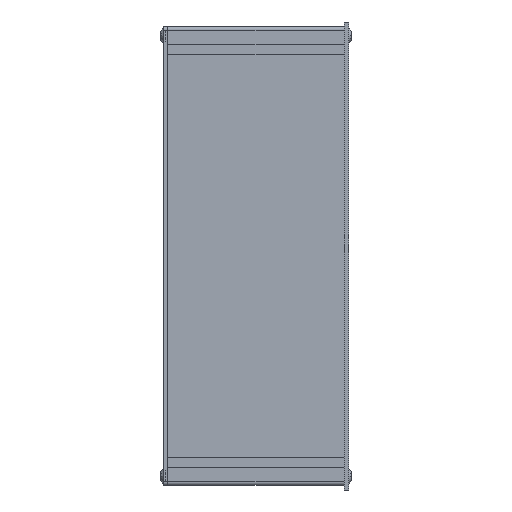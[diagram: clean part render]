
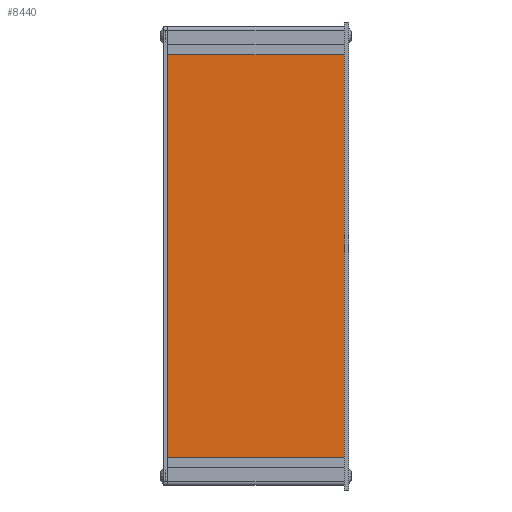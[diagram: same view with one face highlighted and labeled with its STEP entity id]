
A CAD part, left-side view. The second image highlights one B-rep face of the part: STEP entity #8440.
In plain terms, the highlighted planar face has unit normal (-1, 0, 0).
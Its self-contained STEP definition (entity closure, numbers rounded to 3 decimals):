
#932=PLANE('',#9294);
#1230=FACE_OUTER_BOUND('',#1760,.T.);
#1760=EDGE_LOOP('',(#6487,#6488,#6489,#6490));
#2504=LINE('',#13370,#3182);
#2514=LINE('',#13391,#3192);
#2515=LINE('',#13393,#3193);
#2516=LINE('',#13394,#3194);
#3182=VECTOR('',#10716,10.);
#3192=VECTOR('',#10734,10.);
#3193=VECTOR('',#10735,10.);
#3194=VECTOR('',#10736,10.);
#4160=VERTEX_POINT('',#13363);
#4163=VERTEX_POINT('',#13368);
#4170=VERTEX_POINT('',#13390);
#4171=VERTEX_POINT('',#13392);
#4995=EDGE_CURVE('',#4160,#4163,#2504,.T.);
#5005=EDGE_CURVE('',#4160,#4170,#2514,.T.);
#5006=EDGE_CURVE('',#4171,#4163,#2515,.T.);
#5007=EDGE_CURVE('',#4170,#4171,#2516,.T.);
#6487=ORIENTED_EDGE('',*,*,#5005,.F.);
#6488=ORIENTED_EDGE('',*,*,#4995,.T.);
#6489=ORIENTED_EDGE('',*,*,#5006,.F.);
#6490=ORIENTED_EDGE('',*,*,#5007,.F.);
#8440=ADVANCED_FACE('',(#1230),#932,.T.);
#9294=AXIS2_PLACEMENT_3D('',#13389,#10732,#10733);
#10716=DIRECTION('',(0.,1.,0.));
#10732=DIRECTION('center_axis',(-1.,0.,0.));
#10733=DIRECTION('ref_axis',(0.,0.,1.));
#10734=DIRECTION('',(0.,0.,-1.));
#10735=DIRECTION('',(0.,0.,1.));
#10736=DIRECTION('',(0.,1.,0.));
#13363=CARTESIAN_POINT('',(239.,0.,69.8));
#13368=CARTESIAN_POINT('',(239.,100.,69.8));
#13370=CARTESIAN_POINT('',(239.,0.,69.8));
#13389=CARTESIAN_POINT('Origin',(239.,0.,-157.9));
#13390=CARTESIAN_POINT('',(239.,0.,-157.9));
#13391=CARTESIAN_POINT('',(239.,0.,-44.05));
#13392=CARTESIAN_POINT('',(239.,100.,-157.9));
#13393=CARTESIAN_POINT('',(239.,100.,-44.05));
#13394=CARTESIAN_POINT('',(239.,0.,-157.9));
